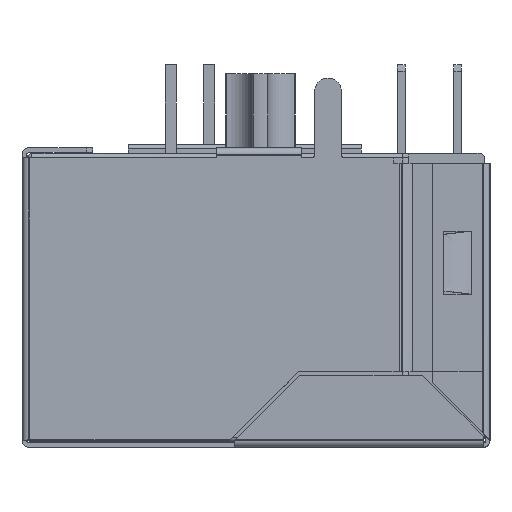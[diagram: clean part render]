
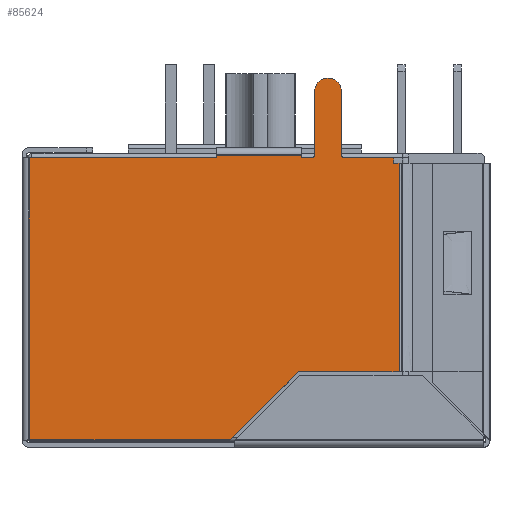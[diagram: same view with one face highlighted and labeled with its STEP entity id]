
A CAD part, left-side view. The second image highlights one B-rep face of the part: STEP entity #85624.
In plain terms, the highlighted planar face has unit normal (-1, 0, 0).
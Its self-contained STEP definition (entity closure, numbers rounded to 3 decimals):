
#2412=CARTESIAN_POINT('',(-29.53,-6.35,6.05));
#8581=DIRECTION('',(0.,1.,0.));
#8582=VECTOR('',#8581,4.55);
#8583=CARTESIAN_POINT('',(-29.53,-6.35,-3.35));
#8584=LINE('',#8583,#8582);
#8585=DIRECTION('',(0.,0.707,-0.707));
#8586=VECTOR('',#8585,4.384);
#8587=CARTESIAN_POINT('',(-29.53,-1.8,-3.35));
#8588=LINE('',#8587,#8586);
#8589=DIRECTION('',(0.,1.,0.));
#8590=VECTOR('',#8589,9.05);
#8591=CARTESIAN_POINT('',(-29.53,1.3,-6.45));
#8592=LINE('',#8591,#8590);
#8593=DIRECTION('',(0.,-1.,0.));
#8594=VECTOR('',#8593,8.45);
#8595=CARTESIAN_POINT('',(-29.53,10.35,6.3));
#8596=LINE('',#8595,#8594);
#8597=DIRECTION('',(0.,0.,1.));
#8598=VECTOR('',#8597,0.15);
#8599=CARTESIAN_POINT('',(-29.53,1.9,6.3));
#8600=LINE('',#8599,#8598);
#8601=DIRECTION('',(0.,0.,-1.));
#8602=VECTOR('',#8601,0.15);
#8603=CARTESIAN_POINT('',(-29.53,-1.95,6.45));
#8604=LINE('',#8603,#8602);
#8605=CARTESIAN_POINT('',(-29.53,-2.4,6.45));
#8606=DIRECTION('',(-1.,0.,0.));
#8607=DIRECTION('',(0.,0.,-1.));
#8608=AXIS2_PLACEMENT_3D('',#8605,#8606,#8607);
#8610=DIRECTION('',(0.,0.,1.));
#8611=VECTOR('',#8610,2.85);
#8612=CARTESIAN_POINT('',(-29.53,-2.55,6.45));
#8613=LINE('',#8612,#8611);
#8614=CARTESIAN_POINT('',(-29.53,-3.15,9.3));
#8615=DIRECTION('',(1.,0.,0.));
#8616=DIRECTION('',(0.,1.,0.));
#8617=AXIS2_PLACEMENT_3D('',#8614,#8615,#8616);
#8619=DIRECTION('',(0.,0.,-1.));
#8620=VECTOR('',#8619,2.85);
#8621=CARTESIAN_POINT('',(-29.53,-3.75,9.3));
#8622=LINE('',#8621,#8620);
#8623=CARTESIAN_POINT('',(-29.53,-3.9,6.45));
#8624=DIRECTION('',(-1.,0.,0.));
#8625=DIRECTION('',(0.,1.,0.));
#8626=AXIS2_PLACEMENT_3D('',#8623,#8624,#8625);
#8628=DIRECTION('',(0.,0.,-1.));
#8629=VECTOR('',#8628,0.25);
#8630=CARTESIAN_POINT('',(-29.53,-6.1,6.3));
#8631=LINE('',#8630,#8629);
#8632=DIRECTION('',(0.,-1.,0.));
#8633=VECTOR('',#8632,0.25);
#8634=CARTESIAN_POINT('',(-29.53,-6.1,6.05));
#8635=LINE('',#8634,#8633);
#9318=DIRECTION('',(0.,0.,-1.));
#9319=VECTOR('',#9318,12.75);
#9320=CARTESIAN_POINT('',(-29.53,10.35,6.3));
#9321=LINE('',#9320,#9319);
#9322=DIRECTION('',(0.,0.,1.));
#9323=VECTOR('',#9322,9.4);
#9324=CARTESIAN_POINT('',(-29.53,-6.35,-3.35));
#9325=LINE('',#9324,#9323);
#9472=DIRECTION('',(0.,1.,0.));
#9473=VECTOR('',#9472,3.85);
#9474=CARTESIAN_POINT('',(-29.53,-1.95,6.45));
#9475=LINE('',#9474,#9473);
#9558=DIRECTION('',(0.,1.,0.));
#9559=VECTOR('',#9558,0.45);
#9560=CARTESIAN_POINT('',(-29.53,-2.4,6.3));
#9561=LINE('',#9560,#9559);
#9598=DIRECTION('',(0.,1.,0.));
#9599=VECTOR('',#9598,2.2);
#9600=CARTESIAN_POINT('',(-29.53,-6.1,6.3));
#9601=LINE('',#9600,#9599);
#61775=VERTEX_POINT('',#2412);
#61776=CARTESIAN_POINT('',(-29.53,-6.1,6.05));
#61777=VERTEX_POINT('',#61776);
#63212=CARTESIAN_POINT('',(-29.53,1.9,6.3));
#63214=VERTEX_POINT('',#63212);
#63215=CARTESIAN_POINT('',(-29.53,10.35,6.3));
#63216=VERTEX_POINT('',#63215);
#63229=CARTESIAN_POINT('',(-29.53,1.9,6.45));
#63230=VERTEX_POINT('',#63229);
#63257=CARTESIAN_POINT('',(-29.53,-6.1,6.3));
#63258=VERTEX_POINT('',#63257);
#63259=CARTESIAN_POINT('',(-29.53,-6.35,-3.35));
#63260=CARTESIAN_POINT('',(-29.53,-1.8,-3.35));
#63261=VERTEX_POINT('',#63259);
#63262=VERTEX_POINT('',#63260);
#63263=CARTESIAN_POINT('',(-29.53,1.3,-6.45));
#63264=VERTEX_POINT('',#63263);
#63265=CARTESIAN_POINT('',(-29.53,10.35,-6.45));
#63266=VERTEX_POINT('',#63265);
#63267=CARTESIAN_POINT('',(-29.53,-1.95,6.45));
#63268=VERTEX_POINT('',#63267);
#63269=CARTESIAN_POINT('',(-29.53,-1.95,6.3));
#63270=VERTEX_POINT('',#63269);
#63271=CARTESIAN_POINT('',(-29.53,-2.4,6.3));
#63272=VERTEX_POINT('',#63271);
#63273=CARTESIAN_POINT('',(-29.53,-2.55,6.45));
#63274=VERTEX_POINT('',#63273);
#63275=CARTESIAN_POINT('',(-29.53,-2.55,9.3));
#63276=VERTEX_POINT('',#63275);
#63277=CARTESIAN_POINT('',(-29.53,-3.75,9.3));
#63278=VERTEX_POINT('',#63277);
#63279=CARTESIAN_POINT('',(-29.53,-3.75,6.45));
#63280=VERTEX_POINT('',#63279);
#63281=CARTESIAN_POINT('',(-29.53,-3.9,6.3));
#63282=VERTEX_POINT('',#63281);
#85585=CARTESIAN_POINT('',(-29.53,2.,1.725));
#85586=DIRECTION('',(1.,0.,0.));
#85587=DIRECTION('',(0.,0.,-1.));
#85588=AXIS2_PLACEMENT_3D('',#85585,#85586,#85587);
#85589=PLANE('',#85588);
#85591=ORIENTED_EDGE('',*,*,#85590,.T.);
#85593=ORIENTED_EDGE('',*,*,#85592,.T.);
#85595=ORIENTED_EDGE('',*,*,#85594,.T.);
#85597=ORIENTED_EDGE('',*,*,#85596,.F.);
#85598=ORIENTED_EDGE('',*,*,#85494,.T.);
#85599=ORIENTED_EDGE('',*,*,#85524,.T.);
#85601=ORIENTED_EDGE('',*,*,#85600,.F.);
#85603=ORIENTED_EDGE('',*,*,#85602,.T.);
#85605=ORIENTED_EDGE('',*,*,#85604,.F.);
#85607=ORIENTED_EDGE('',*,*,#85606,.T.);
#85609=ORIENTED_EDGE('',*,*,#85608,.T.);
#85611=ORIENTED_EDGE('',*,*,#85610,.T.);
#85613=ORIENTED_EDGE('',*,*,#85612,.T.);
#85615=ORIENTED_EDGE('',*,*,#85614,.T.);
#85617=ORIENTED_EDGE('',*,*,#85616,.F.);
#85618=ORIENTED_EDGE('',*,*,#85576,.T.);
#85619=ORIENTED_EDGE('',*,*,#77737,.T.);
#85621=ORIENTED_EDGE('',*,*,#85620,.F.);
#85622=EDGE_LOOP('',(#85591,#85593,#85595,#85597,#85598,#85599,#85601,#85603,
#85605,#85607,#85609,#85611,#85613,#85615,#85617,#85618,#85619,#85621));
#85623=FACE_OUTER_BOUND('',#85622,.F.);
#85624=ADVANCED_FACE('',(#85623),#85589,.F.);
#8609=CIRCLE('',#8608,0.15);
#8618=CIRCLE('',#8617,0.6);
#8627=CIRCLE('',#8626,0.15);
#77737=EDGE_CURVE('',#61777,#61775,#8635,.T.);
#85494=EDGE_CURVE('',#63216,#63214,#8596,.T.);
#85524=EDGE_CURVE('',#63214,#63230,#8600,.T.);
#85576=EDGE_CURVE('',#63258,#61777,#8631,.T.);
#85590=EDGE_CURVE('',#63261,#63262,#8584,.T.);
#85592=EDGE_CURVE('',#63262,#63264,#8588,.T.);
#85594=EDGE_CURVE('',#63264,#63266,#8592,.T.);
#85596=EDGE_CURVE('',#63216,#63266,#9321,.T.);
#85600=EDGE_CURVE('',#63268,#63230,#9475,.T.);
#85602=EDGE_CURVE('',#63268,#63270,#8604,.T.);
#85604=EDGE_CURVE('',#63272,#63270,#9561,.T.);
#85606=EDGE_CURVE('',#63272,#63274,#8609,.T.);
#85608=EDGE_CURVE('',#63274,#63276,#8613,.T.);
#85610=EDGE_CURVE('',#63276,#63278,#8618,.T.);
#85612=EDGE_CURVE('',#63278,#63280,#8622,.T.);
#85614=EDGE_CURVE('',#63280,#63282,#8627,.T.);
#85616=EDGE_CURVE('',#63258,#63282,#9601,.T.);
#85620=EDGE_CURVE('',#63261,#61775,#9325,.T.);
